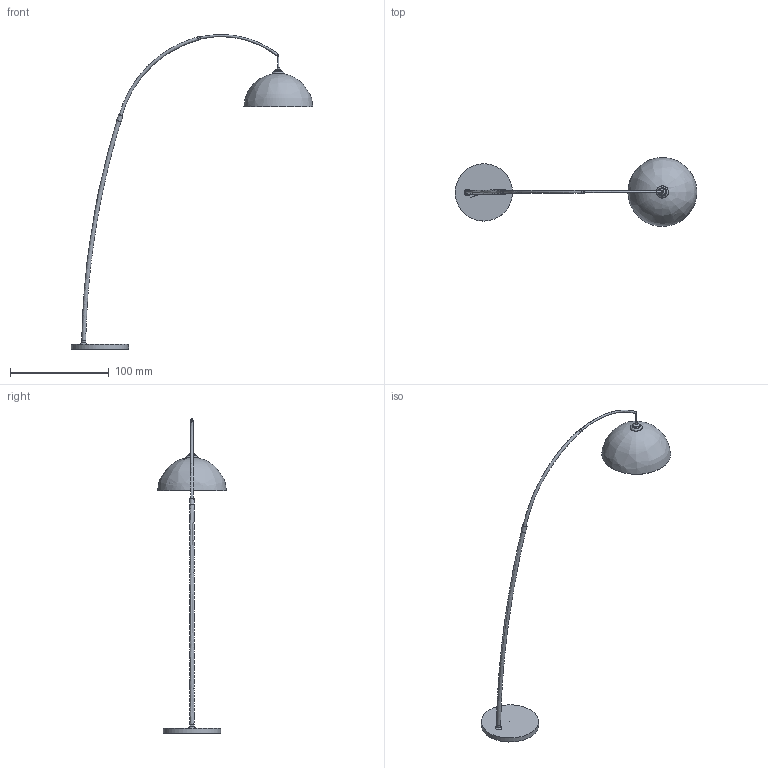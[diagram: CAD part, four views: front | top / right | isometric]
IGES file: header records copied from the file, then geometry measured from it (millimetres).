
Global section: file name: Z:\; native system: Rhinoceros ( Nov 10 2025 ); preprocessor: Trout Lake IGES 012 Nov 10 2025; date: 260519.023108; units: millimetre
Bounding box: 244.36 x 69.62 x 318.24 mm (x, y, z)
Surface area: 36985.5 mm2 (no closed solid volume)
Topology: 0 solids, 0 shells, 89 faces, 293 edges, 216 vertices
Faces by surface type: bspline 89
